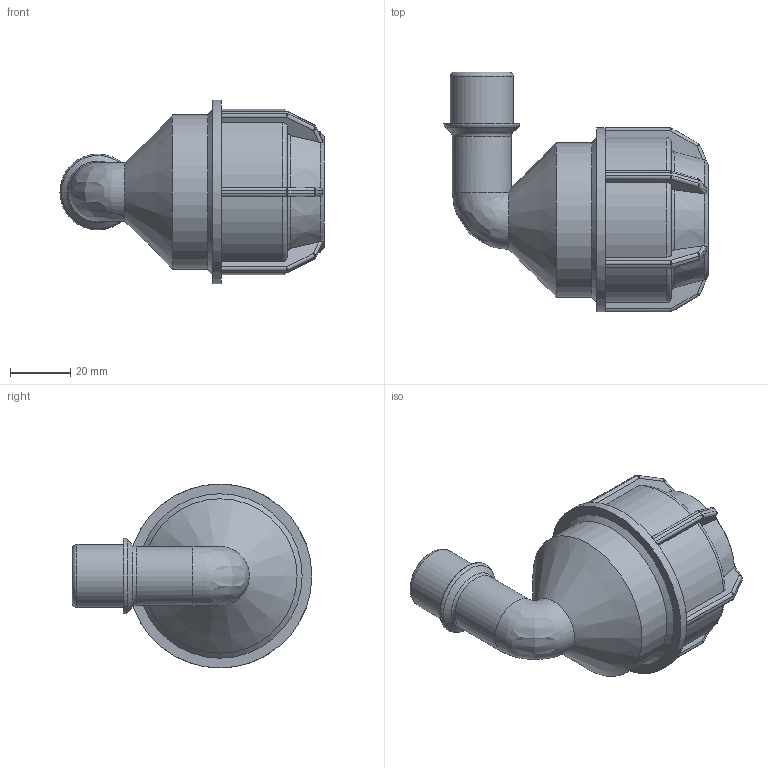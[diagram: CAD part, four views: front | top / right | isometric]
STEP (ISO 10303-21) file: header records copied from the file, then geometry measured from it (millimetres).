
FILE_DESCRIPTION(/* description */ ('PLASSON L.14 90° ELBOW MALE ADAPTOR (SILVER) 32-1/2"'),/* implementation_level */ '2;1');
FILE_NAME(/* name */ 'C:\Dropbox\KIMPROJECTS-Inventor\99-16-3568-Processing\Silver+MF ISRAEL\148500\148500032005.ipt.stp',/* time_stamp */ '2018-04-09T13:05:47+03:00',/* author */ ('KIM'),/* organization */ (''),/* preprocessor_version */ 'ST-DEVELOPER v15.6',/* originating_system */ 'Autodesk Inventor 2015',/* authorisation */ '');
FILE_SCHEMA (('AUTOMOTIVE_DESIGN { 1 0 10303 214 3 1 1 }'));
Length unit declared in the file: millimetre
Products named in the file (1): 148500032005
Bounding box: 87.57 x 79.5 x 61 mm (x, y, z)
Volume: 82188.2 mm3; surface area: 27666.6 mm2
Topology: 1 solids, 1 shells, 214 faces, 510 edges, 291 vertices
Faces by surface type: plane 98, cylinder 63, sphere 24, torus 18, cone 10, bspline 1
Full cylindrical faces by diameter (mm): 16.764 x2, 19.593 x1, 20.955 x1, 25.146 x1, 32 x2, 51.2 x1, 61 x1
Entity records: 6160 total; most frequent: CARTESIAN_POINT 1583, DIRECTION 964, ORIENTED_EDGE 926, EDGE_CURVE 463, AXIS2_PLACEMENT_3D 392, VERTEX_POINT 276, EDGE_LOOP 237, FACE_OUTER_BOUND 212
